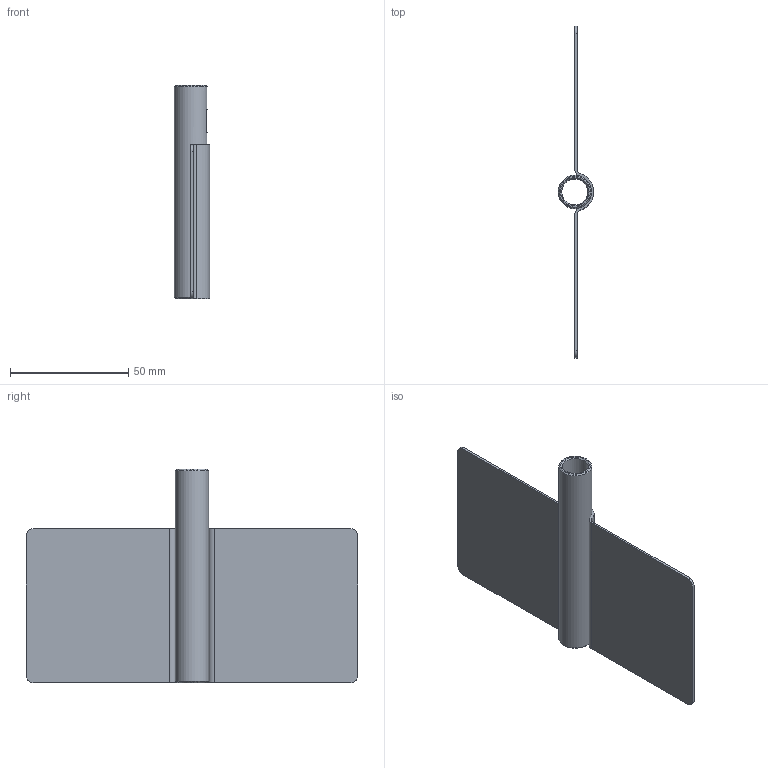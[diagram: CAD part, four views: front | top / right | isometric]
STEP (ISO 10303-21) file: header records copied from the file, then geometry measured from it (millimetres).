
FILE_DESCRIPTION(/* description */ (''),/* implementation_level */ '2;1');
FILE_NAME(/* name */ 'AC9-INOX.stp',/* time_stamp */ '2024-03-22T11:13:04+01:00',/* author */ ('filippo.guidetti'),/* organization */ (''),/* preprocessor_version */ 'ST-DEVELOPER v20',/* originating_system */ 'Autodesk Inventor 2024',/* authorisation */ '');
FILE_SCHEMA (('AUTOMOTIVE_DESIGN { 1 0 10303 214 3 1 1 }'));
Length unit declared in the file: millimetre
Products named in the file (1): AC9-INOX
Bounding box: 14.97 x 140 x 90 mm (x, y, z)
Volume: 14734.5 mm3; surface area: 24244.5 mm2
Topology: 1 solids, 1 shells, 31 faces, 87 edges, 58 vertices
Faces by surface type: plane 14, cylinder 13, cone 4
Full cylindrical faces by diameter (mm): 5.5 x1, 11 x1, 14 x1
Entity records: 1153 total; most frequent: CARTESIAN_POINT 222, DIRECTION 185, ORIENTED_EDGE 174, EDGE_CURVE 87, AXIS2_PLACEMENT_3D 71, VERTEX_POINT 58, LINE 43, VECTOR 43
